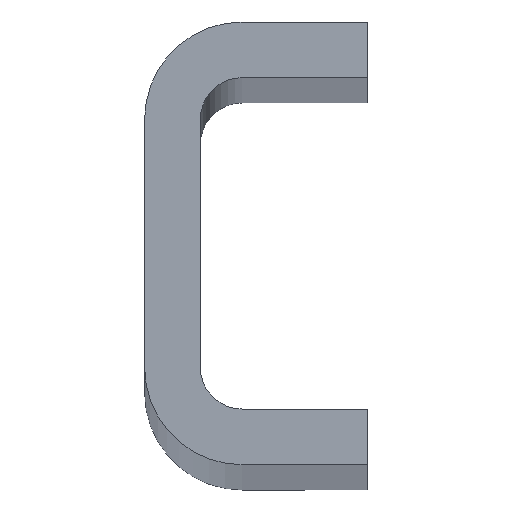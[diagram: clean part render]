
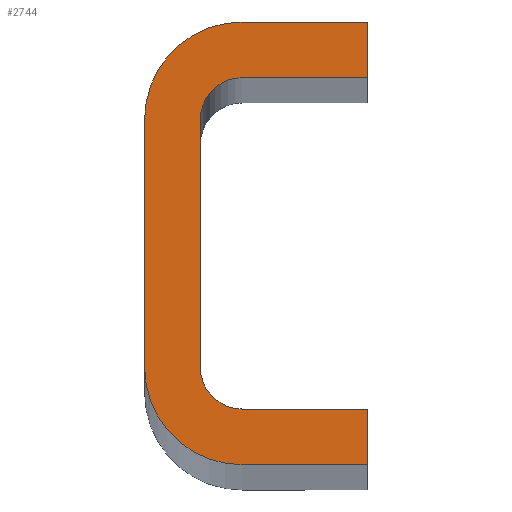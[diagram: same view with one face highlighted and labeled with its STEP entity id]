
A CAD part, top view. The second image highlights one B-rep face of the part: STEP entity #2744.
In plain terms, the highlighted planar face has unit normal (0, 0, 1).
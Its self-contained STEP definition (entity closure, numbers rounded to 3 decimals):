
#29 = DIRECTION ( 'NONE',  ( 1., 0., 0. ) ) ;
#38 = CARTESIAN_POINT ( 'NONE',  ( 16., 11.9, 0. ) ) ;
#119 = EDGE_CURVE ( 'NONE', #2649, #2535, #971, .T. ) ;
#164 = EDGE_CURVE ( 'NONE', #1212, #1000, #2497, .T. ) ;
#185 = DIRECTION ( 'NONE',  ( 0., 1., 0. ) ) ;
#186 = DIRECTION ( 'NONE',  ( -1., 0., 0. ) ) ;
#207 = ORIENTED_EDGE ( 'NONE', *, *, #164, .T. ) ;
#239 = ORIENTED_EDGE ( 'NONE', *, *, #1301, .T. ) ;
#284 = DIRECTION ( 'NONE',  ( 1., 0., 0. ) ) ;
#386 = DIRECTION ( 'NONE',  ( 0., 0., -1. ) ) ;
#427 = EDGE_CURVE ( 'NONE', #1507, #1585, #1321, .T. ) ;
#429 = LINE ( 'NONE', #2771, #2231 ) ;
#462 = ORIENTED_EDGE ( 'NONE', *, *, #842, .T. ) ;
#539 = CARTESIAN_POINT ( 'NONE',  ( 16., -11.9, 0. ) ) ;
#549 = CARTESIAN_POINT ( 'NONE',  ( 16., -11.9, 0. ) ) ;
#565 = AXIS2_PLACEMENT_3D ( 'NONE', #1381, #681, #29 ) ;
#611 = CARTESIAN_POINT ( 'NONE',  ( 0., 8.9, 0. ) ) ;
#617 = EDGE_LOOP ( 'NONE', ( #1024, #1736, #2298, #1177, #239, #2123, #2761, #462, #207, #1967, #2679, #2313 ) ) ;
#669 = VERTEX_POINT ( 'NONE', #2532 ) ;
#670 = EDGE_CURVE ( 'NONE', #1964, #2649, #2631, .T. ) ;
#681 = DIRECTION ( 'NONE',  ( 0., 0., 1. ) ) ;
#713 = DIRECTION ( 'NONE',  ( 1., 0., 0. ) ) ;
#821 = LINE ( 'NONE', #611, #2260 ) ;
#833 = CARTESIAN_POINT ( 'NONE',  ( 7., 8.9, 0. ) ) ;
#842 = EDGE_CURVE ( 'NONE', #2731, #1212, #429, .T. ) ;
#844 = CARTESIAN_POINT ( 'NONE',  ( 4., -8.9, 0. ) ) ;
#848 = DIRECTION ( 'NONE',  ( 1., 0., 0. ) ) ;
#888 = CARTESIAN_POINT ( 'NONE',  ( 4., 8.9, 0. ) ) ;
#936 = VERTEX_POINT ( 'NONE', #1992 ) ;
#942 = CARTESIAN_POINT ( 'NONE',  ( 16., -15.9, 0. ) ) ;
#963 = VERTEX_POINT ( 'NONE', #2618 ) ;
#971 = LINE ( 'NONE', #1432, #1368 ) ;
#1000 = VERTEX_POINT ( 'NONE', #1718 ) ;
#1024 = ORIENTED_EDGE ( 'NONE', *, *, #119, .T. ) ;
#1070 = EDGE_CURVE ( 'NONE', #963, #669, #1755, .T. ) ;
#1096 = AXIS2_PLACEMENT_3D ( 'NONE', #833, #386, #186 ) ;
#1153 = CARTESIAN_POINT ( 'NONE',  ( 16., 15.9, 0. ) ) ;
#1156 = CARTESIAN_POINT ( 'NONE',  ( 7., -15.9, 0. ) ) ;
#1177 = ORIENTED_EDGE ( 'NONE', *, *, #1070, .T. ) ;
#1197 = LINE ( 'NONE', #2704, #2063 ) ;
#1212 = VERTEX_POINT ( 'NONE', #539 ) ;
#1258 = VECTOR ( 'NONE', #185, 1000. ) ;
#1301 = EDGE_CURVE ( 'NONE', #669, #1507, #821, .T. ) ;
#1321 = CIRCLE ( 'NONE', #1678, 7. ) ;
#1359 = CARTESIAN_POINT ( 'NONE',  ( 16., 15.9, 0. ) ) ;
#1368 = VECTOR ( 'NONE', #1830, 1000. ) ;
#1381 = CARTESIAN_POINT ( 'NONE',  ( 7., 8.9, 0. ) ) ;
#1397 = DIRECTION ( 'NONE',  ( -1., 0., 0. ) ) ;
#1407 = EDGE_CURVE ( 'NONE', #936, #1964, #2127, .T. ) ;
#1423 = AXIS2_PLACEMENT_3D ( 'NONE', #2660, #1566, #2442 ) ;
#1432 = CARTESIAN_POINT ( 'NONE',  ( 7., 11.9, 0. ) ) ;
#1507 = VERTEX_POINT ( 'NONE', #2213 ) ;
#1546 = CARTESIAN_POINT ( 'NONE',  ( 7., -15.9, 0. ) ) ;
#1566 = DIRECTION ( 'NONE',  ( 0., 0., -1. ) ) ;
#1576 = LINE ( 'NONE', #1546, #2091 ) ;
#1585 = VERTEX_POINT ( 'NONE', #1156 ) ;
#1590 = AXIS2_PLACEMENT_3D ( 'NONE', #2382, #1785, #848 ) ;
#1595 = FACE_OUTER_BOUND ( 'NONE', #617, .T. ) ;
#1678 = AXIS2_PLACEMENT_3D ( 'NONE', #1767, #2422, #284 ) ;
#1718 = CARTESIAN_POINT ( 'NONE',  ( 7., -11.9, 0. ) ) ;
#1736 = ORIENTED_EDGE ( 'NONE', *, *, #2781, .T. ) ;
#1755 = CIRCLE ( 'NONE', #1590, 7. ) ;
#1767 = CARTESIAN_POINT ( 'NONE',  ( 7., -8.9, 0. ) ) ;
#1785 = DIRECTION ( 'NONE',  ( 0., 0., 1. ) ) ;
#1804 = DIRECTION ( 'NONE',  ( -1., 0., 0. ) ) ;
#1830 = DIRECTION ( 'NONE',  ( 1., 0., 0. ) ) ;
#1917 = DIRECTION ( 'NONE',  ( 0., -1., 0. ) ) ;
#1964 = VERTEX_POINT ( 'NONE', #888 ) ;
#1967 = ORIENTED_EDGE ( 'NONE', *, *, #2691, .T. ) ;
#1992 = CARTESIAN_POINT ( 'NONE',  ( 4., -8.9, 0. ) ) ;
#2063 = VECTOR ( 'NONE', #2504, 1000. ) ;
#2091 = VECTOR ( 'NONE', #713, 1000. ) ;
#2094 = VECTOR ( 'NONE', #1397, 1000. ) ;
#2123 = ORIENTED_EDGE ( 'NONE', *, *, #427, .T. ) ;
#2127 = LINE ( 'NONE', #844, #1258 ) ;
#2166 = EDGE_CURVE ( 'NONE', #1585, #2731, #1576, .T. ) ;
#2213 = CARTESIAN_POINT ( 'NONE',  ( 0., -8.9, 0. ) ) ;
#2231 = VECTOR ( 'NONE', #2556, 1000. ) ;
#2260 = VECTOR ( 'NONE', #1917, 1000. ) ;
#2281 = VECTOR ( 'NONE', #1804, 1000. ) ;
#2298 = ORIENTED_EDGE ( 'NONE', *, *, #2608, .T. ) ;
#2313 = ORIENTED_EDGE ( 'NONE', *, *, #670, .T. ) ;
#2382 = CARTESIAN_POINT ( 'NONE',  ( 7., 8.9, 0. ) ) ;
#2422 = DIRECTION ( 'NONE',  ( 0., 0., 1. ) ) ;
#2442 = DIRECTION ( 'NONE',  ( -1., 0., 0. ) ) ;
#2457 = PLANE ( 'NONE',  #565 ) ;
#2497 = LINE ( 'NONE', #549, #2094 ) ;
#2504 = DIRECTION ( 'NONE',  ( 0., 1., 0. ) ) ;
#2532 = CARTESIAN_POINT ( 'NONE',  ( 0., 8.9, 0. ) ) ;
#2535 = VERTEX_POINT ( 'NONE', #38 ) ;
#2545 = CIRCLE ( 'NONE', #1423, 3. ) ;
#2547 = VERTEX_POINT ( 'NONE', #1359 ) ;
#2556 = DIRECTION ( 'NONE',  ( 0., 1., 0. ) ) ;
#2608 = EDGE_CURVE ( 'NONE', #2547, #963, #2654, .T. ) ;
#2617 = CARTESIAN_POINT ( 'NONE',  ( 7., 11.9, 0. ) ) ;
#2618 = CARTESIAN_POINT ( 'NONE',  ( 7., 15.9, 0. ) ) ;
#2631 = CIRCLE ( 'NONE', #1096, 3. ) ;
#2649 = VERTEX_POINT ( 'NONE', #2617 ) ;
#2654 = LINE ( 'NONE', #1153, #2281 ) ;
#2660 = CARTESIAN_POINT ( 'NONE',  ( 7., -8.9, 0. ) ) ;
#2679 = ORIENTED_EDGE ( 'NONE', *, *, #1407, .T. ) ;
#2691 = EDGE_CURVE ( 'NONE', #1000, #936, #2545, .T. ) ;
#2704 = CARTESIAN_POINT ( 'NONE',  ( 16., 11.9, 0. ) ) ;
#2731 = VERTEX_POINT ( 'NONE', #942 ) ;
#2744 = ADVANCED_FACE ( 'NONE', ( #1595 ), #2457, .T. ) ;
#2761 = ORIENTED_EDGE ( 'NONE', *, *, #2166, .T. ) ;
#2771 = CARTESIAN_POINT ( 'NONE',  ( 16., -15.9, 0. ) ) ;
#2781 = EDGE_CURVE ( 'NONE', #2535, #2547, #1197, .T. ) ;
